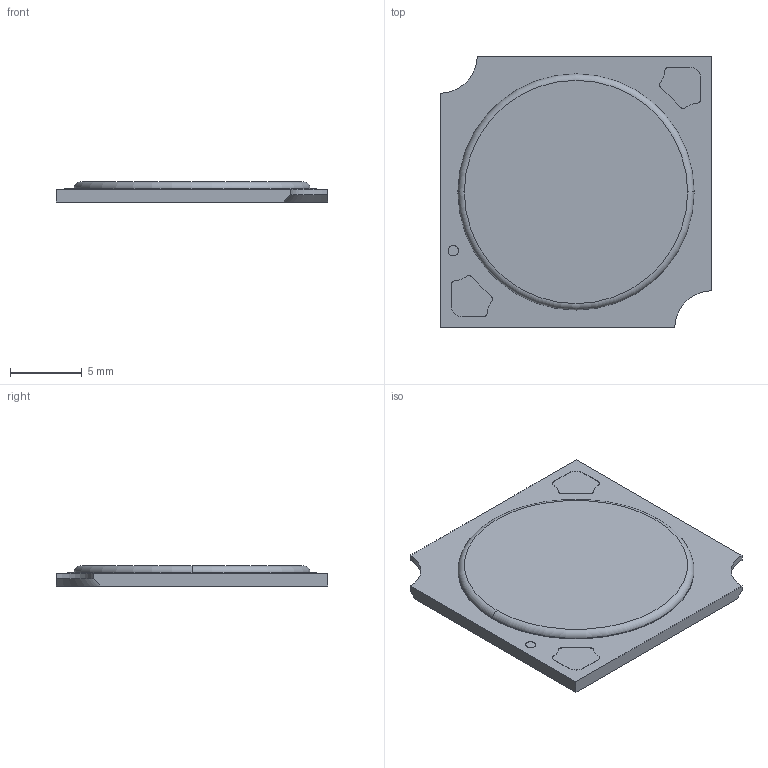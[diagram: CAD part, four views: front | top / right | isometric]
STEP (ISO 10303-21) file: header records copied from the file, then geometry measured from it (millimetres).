
FILE_DESCRIPTION((''),'2;1');
FILE_NAME('16208807_SLE-G7-LES15-MODUL','2018-08-23T09:58:43',('bernhard.fink'),(''),'CREO PARAMETRIC BY PTC INC, 2017380','CREO PARAMETRIC BY PTC INC, 2017380','');
FILE_SCHEMA(('AUTOMOTIVE_DESIGN { 1 0 10303 214 1 1 1 1 }'));
Length unit declared in the file: millimetre
Products named in the file (1): 16208807_SLE-G7-LES15-MODUL
Bounding box: 19 x 19 x 1.4 mm (x, y, z)
Volume: 419.2 mm3; surface area: 780.7 mm2
Topology: 1 solids, 1 shells, 42 faces, 108 edges, 72 vertices
Faces by surface type: cylinder 22, plane 16, cone 2, torus 2
Entity records: 2359 total; most frequent: DIRECTION 244, CARTESIAN_POINT 224, ORIENTED_EDGE 216, PRESENTATION_STYLE_ASSIGNMENT 150, STYLED_ITEM 109, CURVE_STYLE 108, EDGE_CURVE 108, AXIS2_PLACEMENT_3D 94
